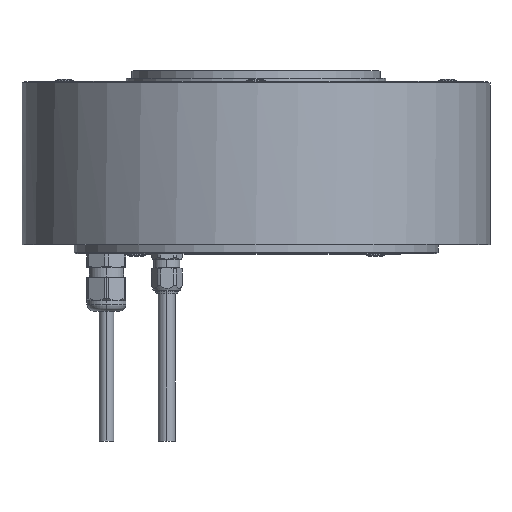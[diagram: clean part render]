
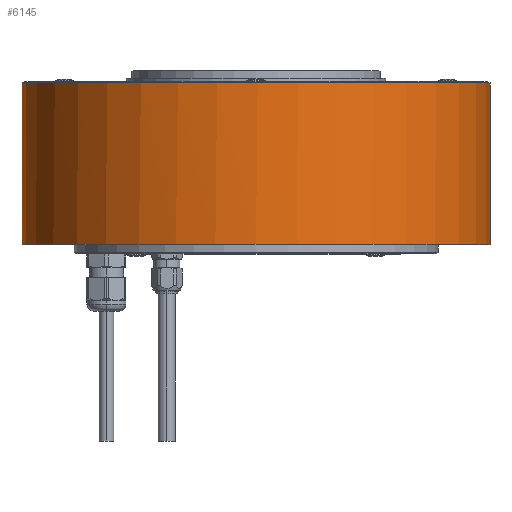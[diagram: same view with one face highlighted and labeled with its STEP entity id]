
A CAD part, top view. The second image highlights one B-rep face of the part: STEP entity #6145.
In plain terms, the highlighted cylindrical face has radius 90 mm (diameter 180 mm), a partial arc.
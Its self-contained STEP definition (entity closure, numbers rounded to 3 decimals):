
#374 = B_SPLINE_CURVE_WITH_KNOTS ( 'NONE', 3,
 ( #8053, #16482, #17688, #8154, #2834, #4685, #16378, #9463, #11217, #18002, #14546, #21131, #21015, #3157, #9787, #13151, #6195, #1550 ),
 .UNSPECIFIED., .F., .F.,
 ( 4, 2, 2, 2, 2, 2, 2, 2, 4 ),
 ( 0., 0.001, 0.002, 0.002, 0.003, 0.004, 0.005, 0.006, 0.007 ),
 .UNSPECIFIED. ) ;
#808 = DIRECTION ( 'NONE',  ( 0., 1., 0. ) ) ;
#895 = CARTESIAN_POINT ( 'NONE',  ( -90., -3., 0. ) ) ;
#1291 = CARTESIAN_POINT ( 'NONE',  ( -89.901, 15.559, 4.222 ) ) ;
#1550 = CARTESIAN_POINT ( 'NONE',  ( -89.9, 15., 4.25 ) ) ;
#2045 = EDGE_CURVE ( 'NONE', #13084, #19916, #10911, .T. ) ;
#2268 = CARTESIAN_POINT ( 'NONE',  ( 90., 0., 0. ) ) ;
#2301 = ORIENTED_EDGE ( 'NONE', *, *, #19749, .F. ) ;
#2596 = DIRECTION ( 'NONE',  ( 0., 1., 0. ) ) ;
#2600 = CARTESIAN_POINT ( 'NONE',  ( -89.9, 15., 4.25 ) ) ;
#2627 = CIRCLE ( 'NONE', #5734, 90. ) ;
#2649 = CARTESIAN_POINT ( 'NONE',  ( 0., 62.2, 0. ) ) ;
#2667 = CARTESIAN_POINT ( 'NONE',  ( 90., 62.2, 0. ) ) ;
#2789 = CARTESIAN_POINT ( 'NONE',  ( -89.981, 18.82, 1.883 ) ) ;
#2834 = CARTESIAN_POINT ( 'NONE',  ( -89.99, 10.967, 1.371 ) ) ;
#2918 = EDGE_CURVE ( 'NONE', #5067, #6949, #7813, .T. ) ;
#3157 = CARTESIAN_POINT ( 'NONE',  ( -89.91, 13.63, 4.033 ) ) ;
#3687 = DIRECTION ( 'NONE',  ( 0., 1., 0. ) ) ;
#4632 = CARTESIAN_POINT ( 'NONE',  ( -90., 19.25, 0.277 ) ) ;
#4685 = CARTESIAN_POINT ( 'NONE',  ( -89.981, 11.181, 1.885 ) ) ;
#4738 = CARTESIAN_POINT ( 'NONE',  ( -89.994, 19.114, 1.104 ) ) ;
#4845 = CARTESIAN_POINT ( 'NONE',  ( -89.99, 19.033, 1.368 ) ) ;
#4963 = ORIENTED_EDGE ( 'NONE', *, *, #13783, .F. ) ;
#5067 = VERTEX_POINT ( 'NONE', #2268 ) ;
#5546 = DIRECTION ( 'NONE',  ( -1., 0., 0. ) ) ;
#5560 = ORIENTED_EDGE ( 'NONE', *, *, #15630, .F. ) ;
#5690 = B_SPLINE_CURVE_WITH_KNOTS ( 'NONE', 3,
 ( #6157, #16126, #1291, #7899, #14504, #21078, #6269, #19469, #7794, #11283, #17642, #13110, #2789, #4845, #4738, #9418, #4632, #16016 ),
 .UNSPECIFIED., .F., .F.,
 ( 4, 2, 2, 2, 2, 2, 2, 2, 4 ),
 ( 0.007, 0.007, 0.008, 0.009, 0.01, 0.011, 0.012, 0.012, 0.013 ),
 .UNSPECIFIED. ) ;
#5734 = AXIS2_PLACEMENT_3D ( 'NONE', #2649, #15770, #8938 ) ;
#5938 = VERTEX_POINT ( 'NONE', #7859 ) ;
#6046 = AXIS2_PLACEMENT_3D ( 'NONE', #18237, #14684, #16712 ) ;
#6145 = ADVANCED_FACE ( 'NONE', ( #8908 ), #20584, .T. ) ;
#6157 = CARTESIAN_POINT ( 'NONE',  ( -89.9, 15., 4.25 ) ) ;
#6195 = CARTESIAN_POINT ( 'NONE',  ( -89.9, 14.723, 4.25 ) ) ;
#6269 = CARTESIAN_POINT ( 'NONE',  ( -89.925, 17.132, 3.687 ) ) ;
#6623 = VERTEX_POINT ( 'NONE', #2600 ) ;
#6746 = CARTESIAN_POINT ( 'NONE',  ( -89.991, 62., 1.25 ) ) ;
#6750 = VECTOR ( 'NONE', #21013, 1000. ) ;
#6949 = VERTEX_POINT ( 'NONE', #19284 ) ;
#7238 = ORIENTED_EDGE ( 'NONE', *, *, #14034, .F. ) ;
#7327 = VERTEX_POINT ( 'NONE', #2667 ) ;
#7794 = CARTESIAN_POINT ( 'NONE',  ( -89.943, 17.807, 3.204 ) ) ;
#7813 = CIRCLE ( 'NONE', #9190, 90. ) ;
#7820 = ORIENTED_EDGE ( 'NONE', *, *, #2918, .F. ) ;
#7859 = CARTESIAN_POINT ( 'NONE',  ( -90., 10.75, 0. ) ) ;
#7899 = CARTESIAN_POINT ( 'NONE',  ( -89.906, 16.104, 4.114 ) ) ;
#8025 = CARTESIAN_POINT ( 'NONE',  ( -90., 62., 0. ) ) ;
#8053 = CARTESIAN_POINT ( 'NONE',  ( -90., 10.75, 0. ) ) ;
#8154 = CARTESIAN_POINT ( 'NONE',  ( -89.994, 10.886, 1.101 ) ) ;
#8338 = DIRECTION ( 'NONE',  ( 0., -1., 0. ) ) ;
#8744 = VECTOR ( 'NONE', #3687, 1000. ) ;
#8908 = FACE_OUTER_BOUND ( 'NONE', #12674, .T. ) ;
#8918 = LINE ( 'NONE', #17151, #17921 ) ;
#8938 = DIRECTION ( 'NONE',  ( -1., 0., 0. ) ) ;
#9190 = AXIS2_PLACEMENT_3D ( 'NONE', #19706, #8338, #14526 ) ;
#9418 = CARTESIAN_POINT ( 'NONE',  ( -89.999, 19.222, 0.559 ) ) ;
#9463 = CARTESIAN_POINT ( 'NONE',  ( -89.963, 11.62, 2.592 ) ) ;
#9787 = CARTESIAN_POINT ( 'NONE',  ( -89.906, 13.898, 4.114 ) ) ;
#9910 = VERTEX_POINT ( 'NONE', #20202 ) ;
#10237 = CARTESIAN_POINT ( 'NONE',  ( -90., -3., 0. ) ) ;
#10259 = VERTEX_POINT ( 'NONE', #13311 ) ;
#10322 = EDGE_CURVE ( 'NONE', #5067, #7327, #8918, .T. ) ;
#10535 = ORIENTED_EDGE ( 'NONE', *, *, #18815, .F. ) ;
#10911 = CIRCLE ( 'NONE', #6046, 90. ) ;
#11217 = CARTESIAN_POINT ( 'NONE',  ( -89.956, 11.8, 2.81 ) ) ;
#11283 = CARTESIAN_POINT ( 'NONE',  ( -89.956, 18.203, 2.807 ) ) ;
#11648 = ORIENTED_EDGE ( 'NONE', *, *, #10322, .T. ) ;
#12551 = ORIENTED_EDGE ( 'NONE', *, *, #19347, .F. ) ;
#12674 = EDGE_LOOP ( 'NONE', ( #7820, #11648, #12551, #10535, #20519, #5560, #4963, #2301, #7238 ) ) ;
#12834 = LINE ( 'NONE', #13055, #6750 ) ;
#13055 = CARTESIAN_POINT ( 'NONE',  ( -89.991, 62., 1.25 ) ) ;
#13084 = VERTEX_POINT ( 'NONE', #8025 ) ;
#13110 = CARTESIAN_POINT ( 'NONE',  ( -89.975, 18.687, 2.132 ) ) ;
#13151 = CARTESIAN_POINT ( 'NONE',  ( -89.901, 14.447, 4.223 ) ) ;
#13311 = CARTESIAN_POINT ( 'NONE',  ( -89.991, 62.2, 1.25 ) ) ;
#13783 = EDGE_CURVE ( 'NONE', #6623, #9910, #5690, .T. ) ;
#13796 = CARTESIAN_POINT ( 'NONE',  ( 0., -3., 0. ) ) ;
#14034 = EDGE_CURVE ( 'NONE', #6949, #5938, #20660, .T. ) ;
#14353 = DIRECTION ( 'NONE',  ( 0., 1., 0. ) ) ;
#14504 = CARTESIAN_POINT ( 'NONE',  ( -89.91, 16.369, 4.033 ) ) ;
#14526 = DIRECTION ( 'NONE',  ( 1., 0., 0. ) ) ;
#14546 = CARTESIAN_POINT ( 'NONE',  ( -89.937, 12.406, 3.378 ) ) ;
#14684 = DIRECTION ( 'NONE',  ( 0., 1., 0. ) ) ;
#15630 = EDGE_CURVE ( 'NONE', #9910, #13084, #18749, .T. ) ;
#15770 = DIRECTION ( 'NONE',  ( 0., 1., 0. ) ) ;
#16016 = CARTESIAN_POINT ( 'NONE',  ( -90., 19.25, 0. ) ) ;
#16126 = CARTESIAN_POINT ( 'NONE',  ( -89.9, 15.277, 4.25 ) ) ;
#16378 = CARTESIAN_POINT ( 'NONE',  ( -89.975, 11.312, 2.129 ) ) ;
#16482 = CARTESIAN_POINT ( 'NONE',  ( -90., 10.75, 0.281 ) ) ;
#16623 = VECTOR ( 'NONE', #2596, 1000. ) ;
#16712 = DIRECTION ( 'NONE',  ( -1., 0., 0. ) ) ;
#17151 = CARTESIAN_POINT ( 'NONE',  ( 90., -3., 0. ) ) ;
#17223 = AXIS2_PLACEMENT_3D ( 'NONE', #13796, #808, #5546 ) ;
#17642 = CARTESIAN_POINT ( 'NONE',  ( -89.963, 18.379, 2.592 ) ) ;
#17688 = CARTESIAN_POINT ( 'NONE',  ( -89.999, 10.778, 0.557 ) ) ;
#17921 = VECTOR ( 'NONE', #14353, 1000. ) ;
#18002 = CARTESIAN_POINT ( 'NONE',  ( -89.943, 12.192, 3.202 ) ) ;
#18237 = CARTESIAN_POINT ( 'NONE',  ( 0., 62., 0. ) ) ;
#18749 = LINE ( 'NONE', #10237, #8744 ) ;
#18815 = EDGE_CURVE ( 'NONE', #19916, #10259, #12834, .T. ) ;
#19284 = CARTESIAN_POINT ( 'NONE',  ( -90., 0., 0. ) ) ;
#19347 = EDGE_CURVE ( 'NONE', #10259, #7327, #2627, .T. ) ;
#19469 = CARTESIAN_POINT ( 'NONE',  ( -89.937, 17.592, 3.379 ) ) ;
#19706 = CARTESIAN_POINT ( 'NONE',  ( 0., 0., 0. ) ) ;
#19749 = EDGE_CURVE ( 'NONE', #5938, #6623, #374, .T. ) ;
#19916 = VERTEX_POINT ( 'NONE', #6746 ) ;
#20202 = CARTESIAN_POINT ( 'NONE',  ( -90., 19.25, 0. ) ) ;
#20519 = ORIENTED_EDGE ( 'NONE', *, *, #2045, .F. ) ;
#20584 = CYLINDRICAL_SURFACE ( 'NONE', #17223, 90. ) ;
#20660 = LINE ( 'NONE', #895, #16623 ) ;
#21013 = DIRECTION ( 'NONE',  ( 0., 1., 0. ) ) ;
#21015 = CARTESIAN_POINT ( 'NONE',  ( -89.919, 13.118, 3.821 ) ) ;
#21078 = CARTESIAN_POINT ( 'NONE',  ( -89.919, 16.883, 3.82 ) ) ;
#21131 = CARTESIAN_POINT ( 'NONE',  ( -89.925, 12.871, 3.689 ) ) ;
